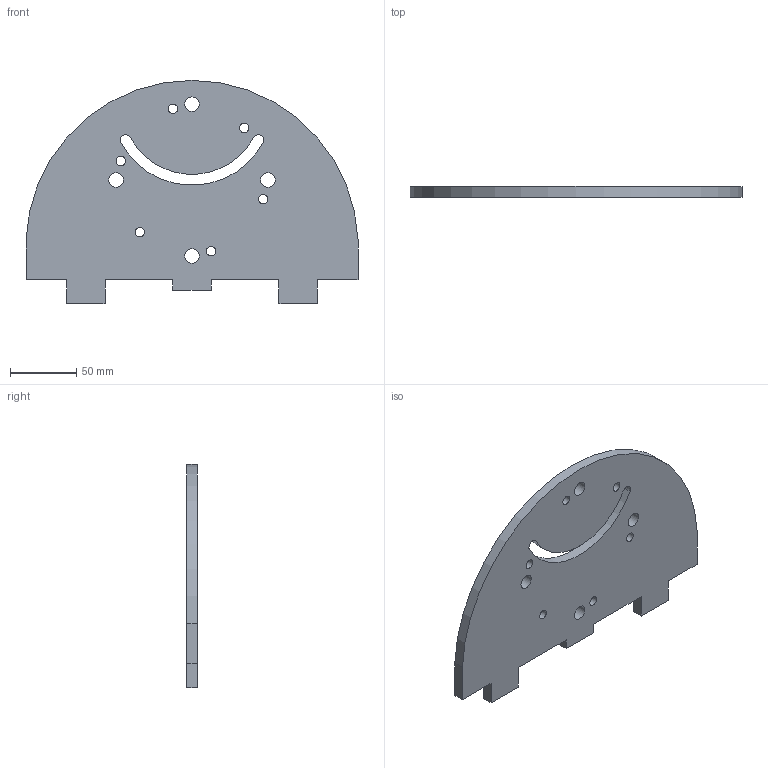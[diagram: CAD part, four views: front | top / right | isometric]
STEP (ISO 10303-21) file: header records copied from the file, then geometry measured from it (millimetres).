
FILE_DESCRIPTION(/* description */ (''),/* implementation_level */ '2;1');
FILE_NAME(/* name */ 'Holder_part_2_ver_2.step',/* time_stamp */ '2026-07-24T14:32:49+02:00',/* author */ ('dariu'),/* organization */ (''),/* preprocessor_version */ 'ST-DEVELOPER v20.1',/* originating_system */ 'Autodesk Inventor 2026',/* authorisation */ '');
FILE_SCHEMA (('AUTOMOTIVE_DESIGN { 1 0 10303 214 3 1 1 }'));
Length unit declared in the file: millimetre
Products named in the file (1): Holder_part_2_ver_1
Bounding box: 250 x 8 x 168 mm (x, y, z)
Volume: 243292.4 mm3; surface area: 71407 mm2
Topology: 1 solids, 1 shells, 32 faces, 90 edges, 60 vertices
Faces by surface type: plane 17, cylinder 15
Full cylindrical faces by diameter (mm): 7.1 x6, 11 x4
Entity records: 1131 total; most frequent: DIRECTION 186, CARTESIAN_POINT 183, ORIENTED_EDGE 180, EDGE_CURVE 90, AXIS2_PLACEMENT_3D 63, LINE 60, VECTOR 60, VERTEX_POINT 60
